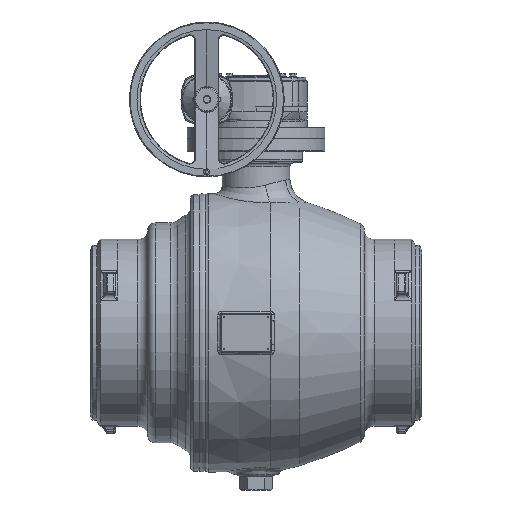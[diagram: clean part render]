
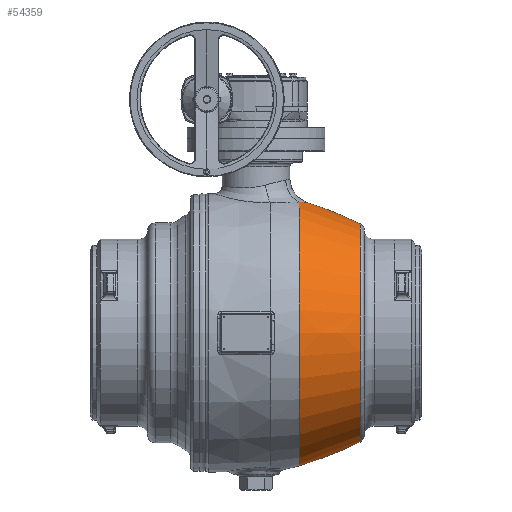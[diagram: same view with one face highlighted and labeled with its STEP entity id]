
A CAD part, front view. The second image highlights one B-rep face of the part: STEP entity #54359.
In plain terms, the highlighted free-form (B-spline) face has degree [3, 3] with [7, 4] control points.
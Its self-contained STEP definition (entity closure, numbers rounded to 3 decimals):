
#5603=CARTESIAN_POINT('',(176.658,-96.05,531.703));
#5604=CARTESIAN_POINT('',(177.105,-95.395,531.683));
#5605=CARTESIAN_POINT('',(177.989,-94.081,531.643));
#5606=CARTESIAN_POINT('',(179.285,-92.099,531.586));
#5607=CARTESIAN_POINT('',(180.552,-90.105,531.531));
#5608=CARTESIAN_POINT('',(181.791,-88.101,531.479));
#5609=CARTESIAN_POINT('',(183.,-86.085,531.43));
#5610=CARTESIAN_POINT('',(184.18,-84.06,531.383));
#5611=CARTESIAN_POINT('',(185.33,-82.024,531.339));
#5612=CARTESIAN_POINT('',(186.452,-79.979,531.297));
#5613=CARTESIAN_POINT('',(187.544,-77.924,531.257));
#5614=CARTESIAN_POINT('',(188.606,-75.86,531.219));
#5615=CARTESIAN_POINT('',(189.639,-73.787,531.183));
#5616=CARTESIAN_POINT('',(190.643,-71.705,531.15));
#5617=CARTESIAN_POINT('',(191.617,-69.615,531.118));
#5618=CARTESIAN_POINT('',(192.562,-67.517,531.087));
#5619=CARTESIAN_POINT('',(193.477,-65.411,531.059));
#5620=CARTESIAN_POINT('',(194.362,-63.298,531.032));
#5621=CARTESIAN_POINT('',(195.218,-61.177,531.007));
#5622=CARTESIAN_POINT('',(196.044,-59.049,530.983));
#5623=CARTESIAN_POINT('',(196.84,-56.915,530.961));
#5624=CARTESIAN_POINT('',(197.607,-54.774,530.94));
#5625=CARTESIAN_POINT('',(198.343,-52.627,530.92));
#5626=CARTESIAN_POINT('',(199.05,-50.474,530.901));
#5627=CARTESIAN_POINT('',(199.727,-48.315,530.884));
#5628=CARTESIAN_POINT('',(200.374,-46.152,530.868));
#5629=CARTESIAN_POINT('',(200.991,-43.983,530.853));
#5630=CARTESIAN_POINT('',(201.578,-41.809,530.839));
#5631=CARTESIAN_POINT('',(202.135,-39.632,530.825));
#5632=CARTESIAN_POINT('',(202.662,-37.449,530.813));
#5633=CARTESIAN_POINT('',(203.159,-35.263,530.802));
#5634=CARTESIAN_POINT('',(203.626,-33.074,530.792));
#5635=CARTESIAN_POINT('',(204.062,-30.881,530.782));
#5636=CARTESIAN_POINT('',(204.469,-28.685,530.773));
#5637=CARTESIAN_POINT('',(204.845,-26.487,530.765));
#5638=CARTESIAN_POINT('',(205.192,-24.286,530.758));
#5639=CARTESIAN_POINT('',(205.508,-22.083,530.751));
#5640=CARTESIAN_POINT('',(205.794,-19.878,530.745));
#5641=CARTESIAN_POINT('',(206.05,-17.671,530.74));
#5642=CARTESIAN_POINT('',(206.276,-15.464,530.735));
#5643=CARTESIAN_POINT('',(206.472,-13.255,530.732));
#5644=CARTESIAN_POINT('',(206.637,-11.046,530.728));
#5645=CARTESIAN_POINT('',(206.773,-8.836,530.725));
#5646=CARTESIAN_POINT('',(206.878,-6.626,530.723));
#5647=CARTESIAN_POINT('',(206.953,-4.417,530.722));
#5648=CARTESIAN_POINT('',(206.998,-2.208,530.721));
#5649=CARTESIAN_POINT('',(207.008,-0.736,
530.721));
#5650=CARTESIAN_POINT('',(207.008,0.,530.721));
#5652=CARTESIAN_POINT('',(-335.347,0.,-1133.116));
#5653=DIRECTION('',(0.,-1.,0.));
#5654=DIRECTION('',(0.433,0.,0.901));
#5655=AXIS2_PLACEMENT_3D('',#5652,#5653,#5654);
#5657=CARTESIAN_POINT('',(423.,0.,0.));
#5658=DIRECTION('',(1.,0.,0.));
#5659=DIRECTION('',(0.,0.,1.));
#5660=AXIS2_PLACEMENT_3D('',#5657,#5658,#5659);
#5662=CARTESIAN_POINT('',(-335.347,0.,
1133.116));
#5663=DIRECTION('',(0.,1.,0.));
#5664=DIRECTION('',(0.433,0.,-0.901));
#5665=AXIS2_PLACEMENT_3D('',#5662,#5663,#5664);
#5974=CARTESIAN_POINT('',(176.658,-96.05,531.703));
#5976=CARTESIAN_POINT('',(176.658,0.,0.));
#5977=DIRECTION('',(1.,0.,0.));
#5978=DIRECTION('',(0.,-0.178,0.984));
#5979=AXIS2_PLACEMENT_3D('',#5976,#5977,#5978);
#47328=CARTESIAN_POINT('',(423.,0.,
-444.037));
#47329=CARTESIAN_POINT('',(176.658,0.,
-540.309));
#47330=VERTEX_POINT('',#47328);
#47331=VERTEX_POINT('',#47329);
#47332=CARTESIAN_POINT('',(423.,0.,444.037));
#47333=VERTEX_POINT('',#47332);
#47335=VERTEX_POINT('',#5974);
#47338=VERTEX_POINT('',#5650);
#54319=CARTESIAN_POINT('',(427.769,27.737,
-440.864));
#54320=CARTESIAN_POINT('',(345.093,30.252,
-480.846));
#54321=CARTESIAN_POINT('',(259.525,32.352,
-514.221));
#54322=CARTESIAN_POINT('',(171.593,34.023,
-540.781));
#54323=CARTESIAN_POINT('',(427.769,-243.57,
-457.933));
#54324=CARTESIAN_POINT('',(345.093,-265.66,
-499.463));
#54325=CARTESIAN_POINT('',(259.525,-284.099,
-534.13));
#54326=CARTESIAN_POINT('',(171.593,-298.773,
-561.719));
#54327=CARTESIAN_POINT('',(427.769,-441.735,
-271.843));
#54328=CARTESIAN_POINT('',(345.093,-481.797,
-296.497));
#54329=CARTESIAN_POINT('',(259.525,-515.238,
-317.077));
#54330=CARTESIAN_POINT('',(171.593,-541.851,
-333.454));
#54331=CARTESIAN_POINT('',(427.769,-441.735,
0.));
#54332=CARTESIAN_POINT('',(345.093,-481.797,
0.));
#54333=CARTESIAN_POINT('',(259.525,-515.238,
0.));
#54334=CARTESIAN_POINT('',(171.593,-541.851,
0.));
#54335=CARTESIAN_POINT('',(427.769,-441.735,
271.843));
#54336=CARTESIAN_POINT('',(345.093,-481.797,
296.497));
#54337=CARTESIAN_POINT('',(259.525,-515.238,
317.077));
#54338=CARTESIAN_POINT('',(171.593,-541.851,
333.454));
#54339=CARTESIAN_POINT('',(427.769,-243.57,
457.933));
#54340=CARTESIAN_POINT('',(345.093,-265.66,
499.463));
#54341=CARTESIAN_POINT('',(259.525,-284.099,
534.13));
#54342=CARTESIAN_POINT('',(171.593,-298.773,
561.719));
#54343=CARTESIAN_POINT('',(427.769,27.737,440.864));
#54344=CARTESIAN_POINT('',(345.093,30.252,480.846));
#54345=CARTESIAN_POINT('',(259.525,32.352,514.221));
#54346=CARTESIAN_POINT('',(171.593,34.023,540.781));
#54347=(BOUNDED_SURFACE()B_SPLINE_SURFACE(3,3,((#54319,#54320,#54321,#54322),(
#54323,#54324,#54325,#54326),(#54327,#54328,#54329,#54330),(#54331,#54332,
#54333,#54334),(#54335,#54336,#54337,#54338),(#54339,#54340,#54341,#54342),(
#54343,#54344,#54345,#54346)),.UNSPECIFIED.,.F.,.F.,.F.)B_SPLINE_SURFACE_WITH_KNOTS((4,3,4),(4,4),(0.,1.,2.),(0.,1.),.UNSPECIFIED.)GEOMETRIC_REPRESENTATION_ITEM()RATIONAL_B_SPLINE_SURFACE(((1.189,1.187,
1.187,1.189),(0.939,0.937,
0.937,0.939),(0.939,0.937,
0.937,0.939),(1.189,1.187,
1.187,1.189),(0.939,0.937,
0.937,0.939),(0.939,0.937,
0.937,0.939),(1.189,1.187,
1.187,1.189)))REPRESENTATION_ITEM('')SURFACE());
#54348=ORIENTED_EDGE('',*,*,#54309,.T.);
#54350=ORIENTED_EDGE('',*,*,#54349,.F.);
#54352=ORIENTED_EDGE('',*,*,#54351,.T.);
#54354=ORIENTED_EDGE('',*,*,#54353,.T.);
#54356=ORIENTED_EDGE('',*,*,#54355,.F.);
#54357=EDGE_LOOP('',(#54348,#54350,#54352,#54354,#54356));
#54358=FACE_OUTER_BOUND('',#54357,.F.);
#54359=ADVANCED_FACE('',(#54358),#54347,.T.);
#5651=B_SPLINE_CURVE_WITH_KNOTS('',3,(#5603,#5604,#5605,#5606,#5607,#5608,#5609,
#5610,#5611,#5612,#5613,#5614,#5615,#5616,#5617,#5618,#5619,#5620,#5621,#5622,
#5623,#5624,#5625,#5626,#5627,#5628,#5629,#5630,#5631,#5632,#5633,#5634,#5635,
#5636,#5637,#5638,#5639,#5640,#5641,#5642,#5643,#5644,#5645,#5646,#5647,#5648,
#5649,#5650),.UNSPECIFIED.,.F.,.F.,(4,1,1,1,1,1,1,1,1,1,1,1,1,1,1,1,1,1,1,1,1,1,
1,1,1,1,1,1,1,1,1,1,1,1,1,1,1,1,1,1,1,1,1,1,1,4),(0.,0.022,
0.044,0.067,0.089,0.111,
0.133,0.156,0.178,0.2,0.222,
0.244,0.267,0.289,0.311,
0.333,0.356,0.378,0.4,0.422,
0.444,0.467,0.489,0.511,
0.533,0.556,0.578,0.6,0.622,
0.644,0.667,0.689,0.711,
0.733,0.756,0.778,0.8,0.822,
0.844,0.867,0.889,0.911,
0.933,0.956,0.978,1.),.UNSPECIFIED.);
#5656=CIRCLE('',#5655,1750.);
#5661=CIRCLE('',#5660,444.037);
#5666=CIRCLE('',#5665,1750.);
#5980=CIRCLE('',#5979,540.309);
#54309=EDGE_CURVE('',#47335,#47338,#5651,.T.);
#54349=EDGE_CURVE('',#47333,#47338,#5656,.T.);
#54351=EDGE_CURVE('',#47333,#47330,#5661,.T.);
#54353=EDGE_CURVE('',#47330,#47331,#5666,.T.);
#54355=EDGE_CURVE('',#47335,#47331,#5980,.T.);
